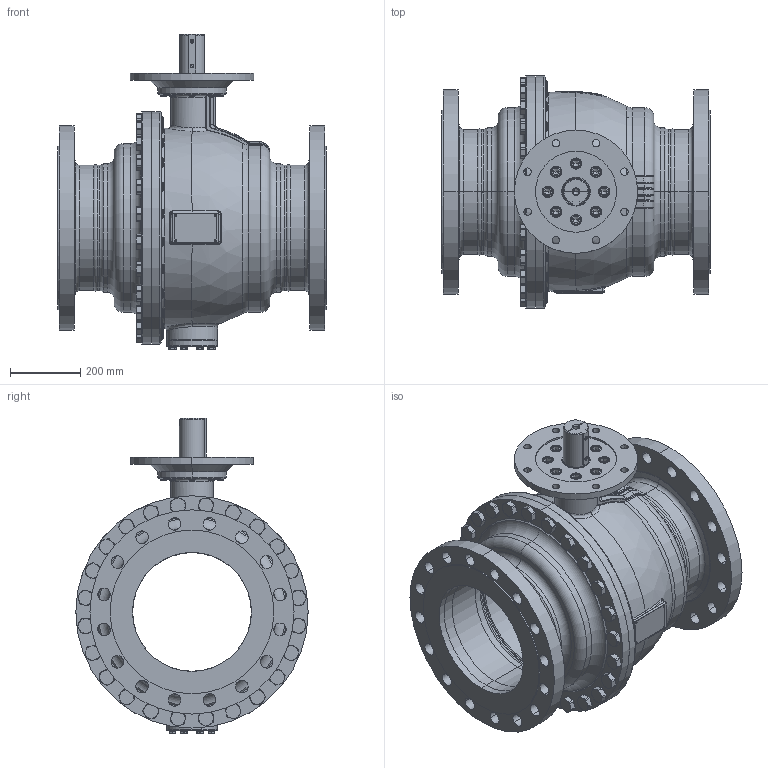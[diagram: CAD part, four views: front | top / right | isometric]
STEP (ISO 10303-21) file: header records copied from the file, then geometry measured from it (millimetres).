
FILE_DESCRIPTION((''),'2;1');
FILE_NAME('KHI-F_350_PN040-F30-P_SW0001','2026-02-05T15:40:03',('fischerkl'),('KLINGER'),'CREO PARAMETRIC BY PTC INC, 2023014','CREO PARAMETRIC BY PTC INC, 2023014','');
FILE_SCHEMA(('CONFIG_CONTROL_DESIGN'));
Products named in the file (1): KHI-F_350_PN040-F30-P_SW0001
Bounding box: 762 x 660 x 895.8 mm (x, y, z)
Volume: 51250951.5 mm3; surface area: 6389828.1 mm2
Topology: 1 solids, 4 shells, 3414 faces, 8622 edges, 5384 vertices
Faces by surface type: plane 1743, cylinder 799, cone 448, torus 295, bspline 99, sphere 30
Entity records: 144462 total; most frequent: CARTESIAN_POINT 63038, ORIENTED_EDGE 17192, DIRECTION 16862, EDGE_CURVE 8596, AXIS2_PLACEMENT_3D 6429, VERTEX_POINT 5384, VECTOR 4004, LINE 4004
